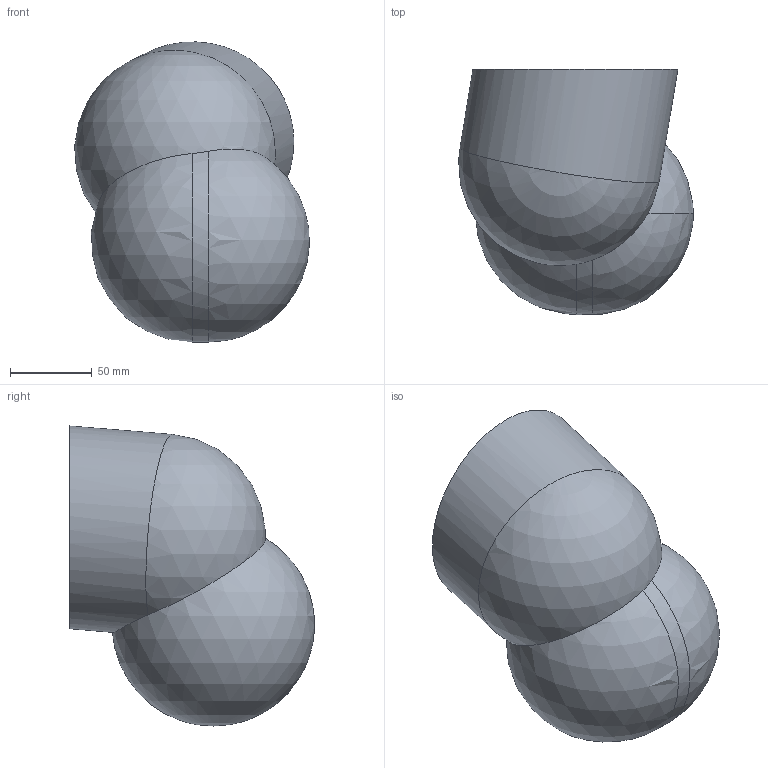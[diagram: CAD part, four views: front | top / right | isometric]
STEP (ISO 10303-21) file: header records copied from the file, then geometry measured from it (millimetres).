
FILE_DESCRIPTION(('Open CASCADE Model'),'2;1');
FILE_NAME('Open CASCADE Shape Model','2026-11-10T19:16:44',('Author'),( 'Open CASCADE'),'Open CASCADE STEP processor 8.0','Open CASCADE 8.0' ,'Unknown');
FILE_SCHEMA(('AUTOMOTIVE_DESIGN { 1 0 10303 214 1 1 1 1 }'));
Length unit declared in the file: millimetre
Products named in the file (1): Open CASCADE STEP translator 8.0 3
Bounding box: 143.94 x 150.13 x 184.01 mm (x, y, z)
Volume: 145720.8 mm3; surface area: 146508.8 mm2
Topology: 1 solids, 1 shells, 15 faces, 40 edges, 22 vertices
Faces by surface type: sphere 8, cylinder 6, plane 1
Full cylindrical faces by diameter (mm): 120 x1, 124 x1
Entity records: 2410 total; most frequent: CARTESIAN_POINT 1748, DIRECTION 114, ORIENTED_EDGE 68, PCURVE 68, DEFINITIONAL_REPRESENTATION 68, B_SPLINE_CURVE_WITH_KNOTS 42, AXIS2_PLACEMENT_3D 38, LINE 36
